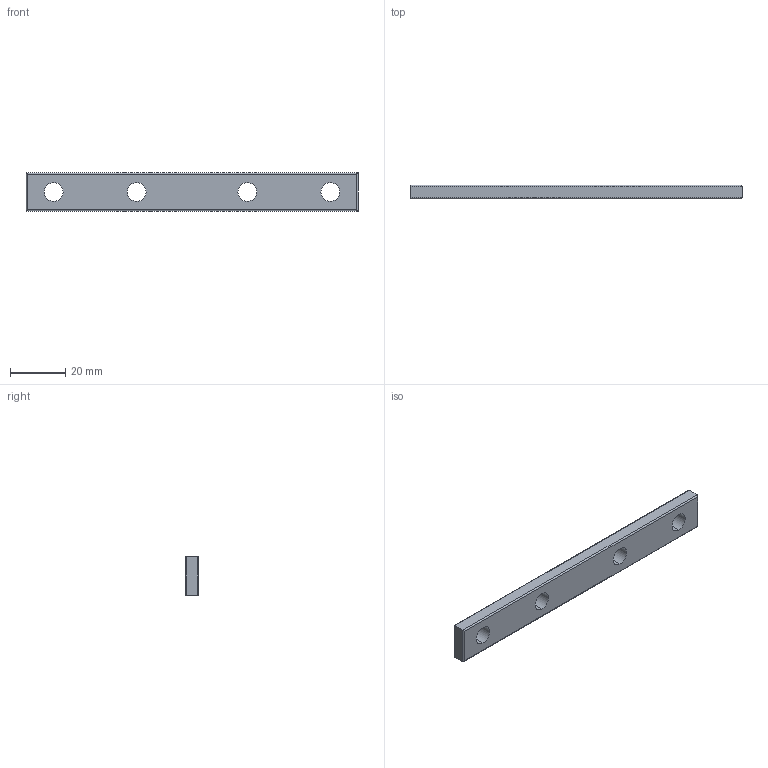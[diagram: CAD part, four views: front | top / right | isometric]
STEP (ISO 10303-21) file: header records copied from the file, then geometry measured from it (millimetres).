
FILE_DESCRIPTION (( 'STEP AP203' ), '1' );
FILE_NAME ('HLS08120.STEP', '2024-02-19T05:49:48', ( '' ), ( '' ), 'SwSTEP 2.0', 'SolidWorks 2022', '' );
FILE_SCHEMA (( 'CONFIG_CONTROL_DESIGN' ));
Length unit declared in the file: millimetre
Products named in the file (1): HLS08120
Bounding box: 120 x 5 x 14 mm (x, y, z)
Volume: 7645 mm3; surface area: 4721.4 mm2
Topology: 1 solids, 1 shells, 22 faces, 52 edges, 32 vertices
Faces by surface type: cylinder 16, plane 6
Entity records: 721 total; most frequent: CARTESIAN_POINT 131, DIRECTION 106, ORIENTED_EDGE 104, EDGE_CURVE 52, AXIS2_PLACEMENT_3D 39, VERTEX_POINT 32, EDGE_LOOP 30, LINE 28
